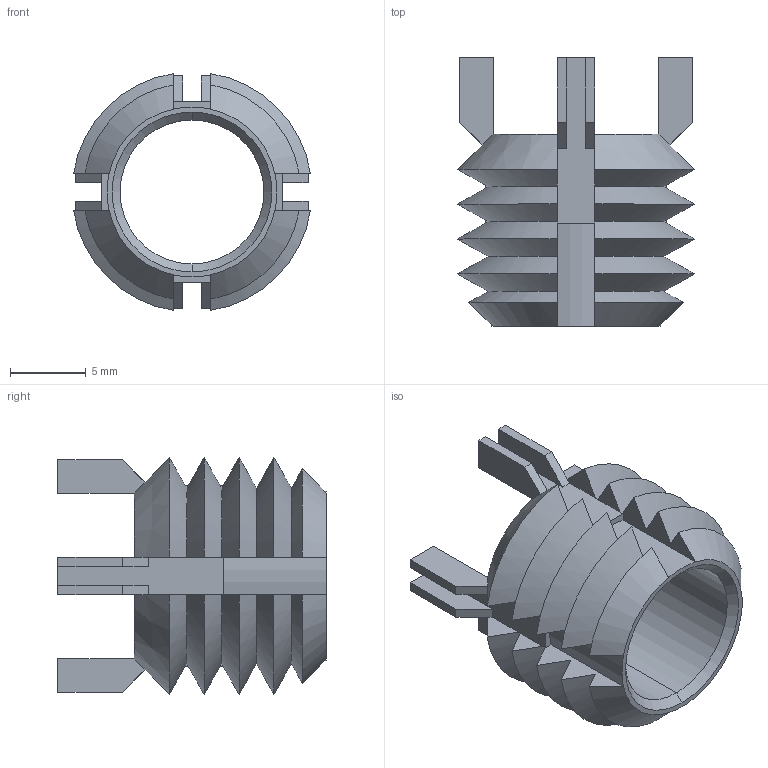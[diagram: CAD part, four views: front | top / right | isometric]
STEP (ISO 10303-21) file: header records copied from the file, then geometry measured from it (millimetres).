
FILE_DESCRIPTION (( 'STEP AP203' ), '1' );
FILE_NAME ('22034.W0361.step', '2023-04-20T09:56:49', ( '' ), ( '' ), 'SwSTEP 2.0', 'SolidWorks 2019', '' );
FILE_SCHEMA (( 'CONFIG_CONTROL_DESIGN' ));
Length unit declared in the file: millimetre
Products named in the file (1): 22034.W0361
Bounding box: 15.68 x 17.77 x 15.68 mm (x, y, z)
Volume: 900.7 mm3; surface area: 1692.3 mm2
Topology: 1 solids, 1 shells, 140 faces, 354 edges, 216 vertices
Faces by surface type: plane 90, cone 44, cylinder 6
Entity records: 4299 total; most frequent: CARTESIAN_POINT 1071, ORIENTED_EDGE 708, DIRECTION 576, EDGE_CURVE 354, VERTEX_POINT 216, AXIS2_PLACEMENT_3D 201, VECTOR 174, LINE 174
